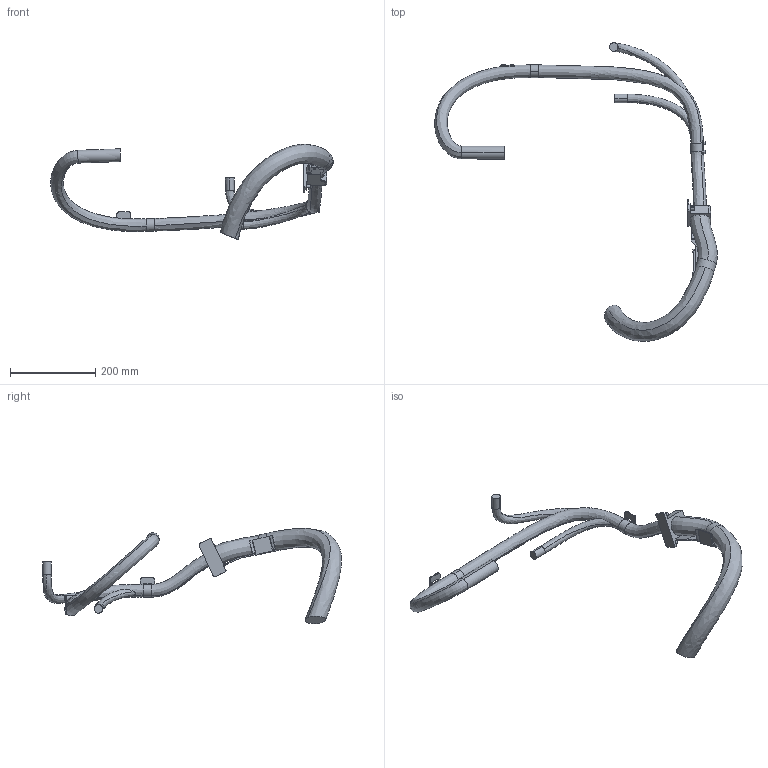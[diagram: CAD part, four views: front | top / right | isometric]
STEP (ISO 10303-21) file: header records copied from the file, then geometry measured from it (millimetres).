
FILE_DESCRIPTION (( 'STEP AP214' ), '1' );
FILE_NAME ('IRB6730S-ALL-OC_00_LINK03m_CABLE.step', '2026-05-26T10:36:24', ( '' ), ( '' ), 'SwSTEP 2.0', 'SolidWorks 2024', '' );
FILE_SCHEMA (( 'AUTOMOTIVE_DESIGN' ));
Length unit declared in the file: millimetre
Products named in the file (1): IRB6730S-ALL-OC_00_LINK03m_CABLE
Bounding box: 663.65 x 701 x 224.47 mm (x, y, z)
Volume: 1899426 mm3; surface area: 240189.6 mm2
Topology: 1 solids, 1 shells, 186 faces, 511 edges, 329 vertices
Faces by surface type: plane 97, cylinder 73, bspline 16
Entity records: 12535 total; most frequent: CARTESIAN_POINT 7866, ORIENTED_EDGE 1022, DIRECTION 927, EDGE_CURVE 511, AXIS2_PLACEMENT_3D 331, VERTEX_POINT 329, VECTOR 265, LINE 265
